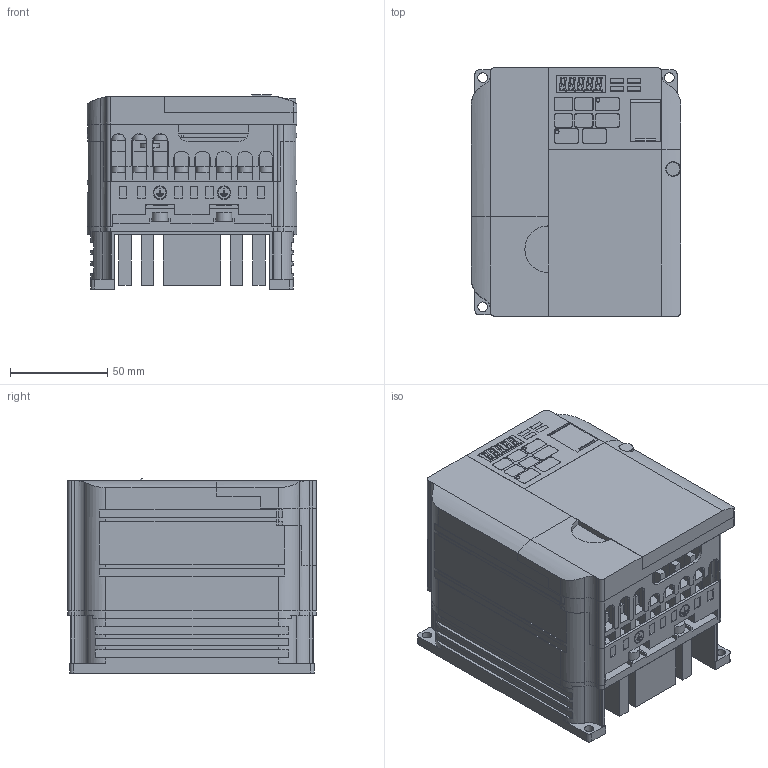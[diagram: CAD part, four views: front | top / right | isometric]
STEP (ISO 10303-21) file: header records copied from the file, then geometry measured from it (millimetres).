
FILE_DESCRIPTION((''),'2;1');
FILE_NAME('4A0002B_ASM','2010-07-20T',('jc'),('YASKAWA ELECTRIC CORCORATION'),'PRO/ENGINEER BY PARAMETRIC TECHNOLOGY CORPORATION, 2008490','PRO/ENGINEER BY PARAMETRIC TECHNOLOGY CORPORATION, 2008490','');
FILE_SCHEMA(('CONFIG_CONTROL_DESIGN'));
Length unit declared in the file: millimetre
Products named in the file (23): NONE-52108; ASM0005_ASM; NONE-50023; ASM0006_ASM; NONE-62898; ASM0007_ASM; NONE-69404; ASM0008_ASM; NONE-51710; BASE_HEATSINK_B3________ANY_ASM; NONE-57973; ASM0009_ASM; NONE-52319; ASM0010_ASM; NONE-57717; ASM0011_ASM; NONE-53236; ASM0012_ASM; NONE-48597; ASM0013_ASM; CIMR_VZ4A0002BAA_ANY_ASM; _4A0002B; 4A0002B_ASM
Assembly tree (22 placements, depth 4):
  4A0002B_ASM
    CIMR_VZ4A0002BAA_ANY_ASM
      ASM0005_ASM
        NONE-52108
      ASM0006_ASM
        NONE-50023
      ASM0007_ASM
        NONE-62898
      ASM0008_ASM
        NONE-69404
      BASE_HEATSINK_B3________ANY_ASM
        NONE-51710
      ASM0009_ASM
        NONE-57973
      ASM0010_ASM
        NONE-52319
      ASM0011_ASM
        NONE-57717
      ASM0012_ASM
        NONE-53236
      ASM0013_ASM
        NONE-48597
    _4A0002B
Bounding box: 108 x 128 x 100 mm (x, y, z)
Volume: 927598.8 mm3; surface area: 222566.7 mm2
Topology: 10 solids, 10 shells, 1865 faces, 5059 edges, 3350 vertices
Faces by surface type: plane 1498, cylinder 367
Entity records: 58897 total; most frequent: CARTESIAN_POINT 10424, ORIENTED_EDGE 10118, DIRECTION 9750, EDGE_CURVE 5059, VECTOR 4208, LINE 4208, VERTEX_POINT 3350, AXIS2_PLACEMENT_3D 2771
